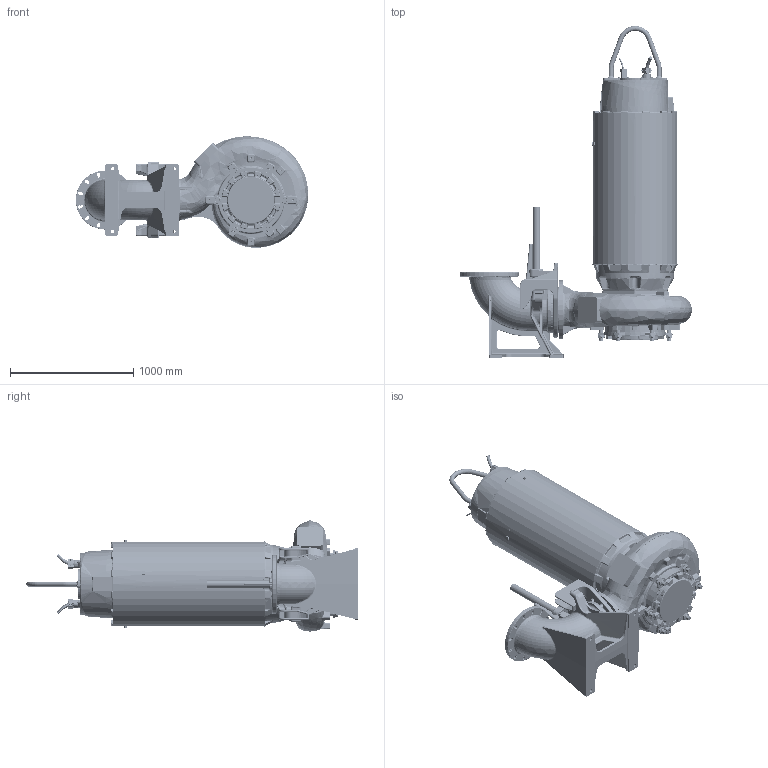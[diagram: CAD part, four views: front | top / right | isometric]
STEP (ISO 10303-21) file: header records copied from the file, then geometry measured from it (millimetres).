
FILE_DESCRIPTION (( 'STEP AP214' ), '1' );
FILE_NAME ('PE6_XFP305M-CB2_WET_C_NG2.STEP', '2017-03-21T08:46:53', ( '' ), ( '' ), 'SwSTEP 2.0', 'SolidWorks 2017', '' );
FILE_SCHEMA (( 'AUTOMOTIVE_DESIGN' ));
Length unit declared in the file: millimetre
Products named in the file (1): PE6_XFP305M-CB2_WET_C_NG2
Bounding box: 1889.63 x 2698 x 906.41 mm (x, y, z)
Volume: 98008019.8 mm3; surface area: 10911987.1 mm2
Topology: 34 solids, 35 shells, 6089 faces, 14916 edges, 8706 vertices
Faces by surface type: bspline 1579, cylinder 1560, plane 1396, torus 674, cone 622, sphere 258
Entity records: 344495 total; most frequent: CARTESIAN_POINT 148066, ORIENTED_EDGE 29154, DIRECTION 24627, EDGE_CURVE 14577, AXIS2_PLACEMENT_3D 10026, VERTEX_POINT 8698, EDGE_LOOP 6415, UNCERTAINTY_MEASURE_WITH_UNIT 6096
